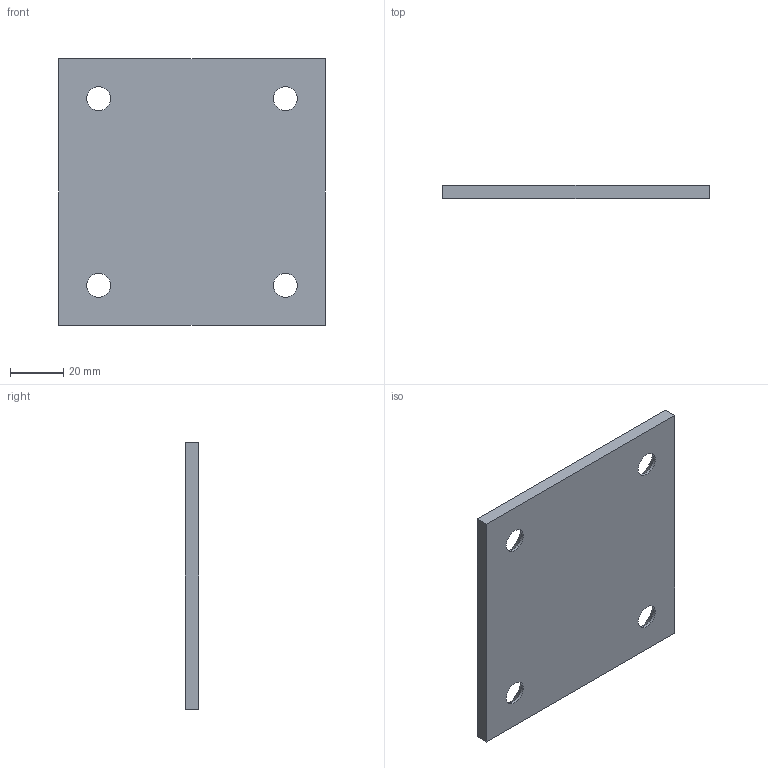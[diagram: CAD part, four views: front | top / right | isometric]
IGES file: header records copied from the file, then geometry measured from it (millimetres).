
Start section: Data from Parasolid IGES Translator 20.0.26, Copyright(c) 2006 Siemens P LM Software. All Rights Reserved.
Global section: file name: P605-01-100-100.igs; native system: By Siemens PLM Incorporated; preprocessor: XPlus GENERIC/IGES 20.0.26; author: Noname; organization: Noname; date: 20190705.150143; units: millimetre
Bounding box: 100 x 5 x 100 mm (x, y, z)
Surface area: 21874.8 mm2 (no closed solid volume)
Topology: 0 solids, 0 shells, 14 faces, 64 edges, 56 vertices
Faces by surface type: revolution 8, extrusion 6
